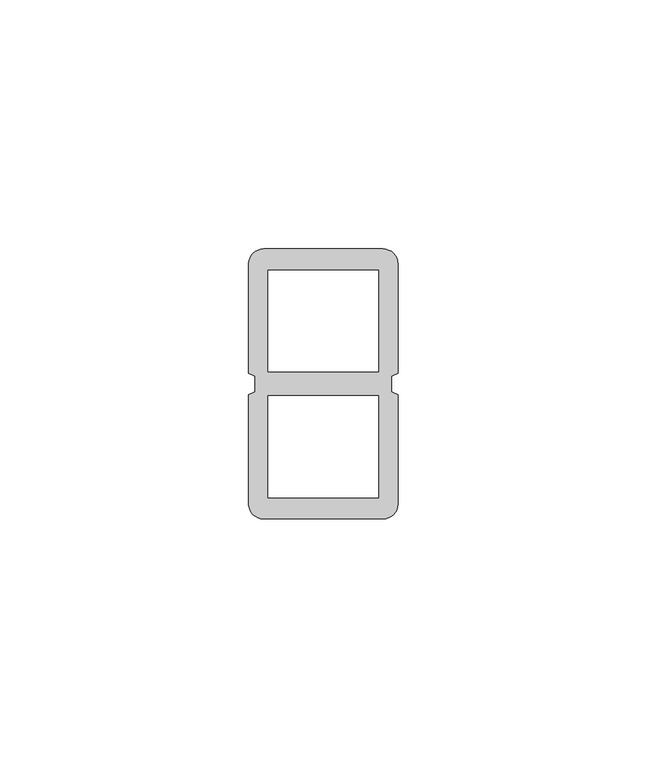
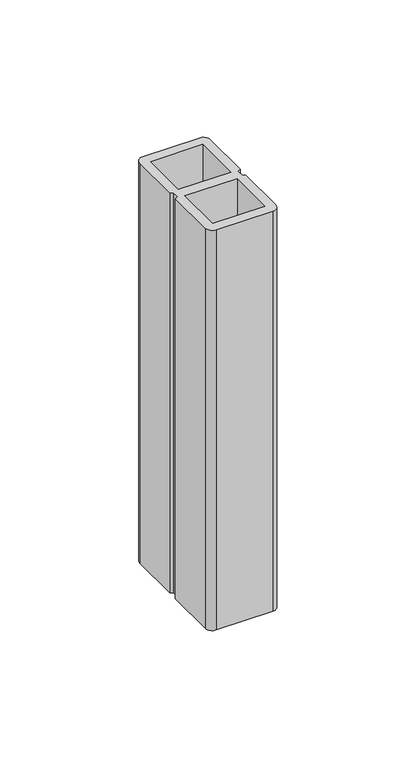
"""IFC4 building model written with IfcOpenShell, lengths in millimetres: proxy geometry, Legar systemowy LD5030_pion : Legar systemowy LD5030_pion."""

from ifc_helpers import new_model, si_unit, point, frame_2d, origin, origin_with_axes, place, context, project, spatial, polyline, circle_curve, trimmed, segment, composite_curve, outline, extrude, source, transform, mapped, element, save


def generic_models_7d2dd9e2(model_context):
    return source(origin(), model_context, "Body", "SweptSolid", [
        extrude(outline(composite_curve([segment(polyline([(0.0, -3.0018903), (0.0, -24.9387574), (-1.2480109, -25.582892), (-1.2480109, -28.6791258), (0.0, -29.3232605), (0.0, -51.2601275)]), True, "CONTINUOUS"), segment(trimmed(circle_curve(frame_2d((-3.0209296, -51.2410882)), 3.0209896), [point((0.0, -51.2601275))], [point((-3.0018903, -54.2620178))], False, "CARTESIAN"), True, "CONTINUOUS"), segment(polyline([(-3.0018903, -54.2620178), (-26.9981097, -54.2620178)]), True, "CONTINUOUS"), segment(trimmed(circle_curve(frame_2d((-26.9650502, -51.227068)), 3.0351298), [point((-26.9981097, -54.2620178))], [point((-30.0, -51.2601275))], False, "CARTESIAN"), True, "CONTINUOUS"), segment(polyline([(-30.0, -51.2601275), (-30.0, -29.321697), (-28.7550182, -28.6791258), (-28.7550182, -25.582892), (-30.0, -24.9403208), (-30.0, -3.0018903)]), True, "CONTINUOUS"), segment(trimmed(circle_curve(frame_2d((-26.9640525, -3.0359475)), 3.0361385), [point((-30.0, -3.0018903))], [point((-26.9981097, 0.0))], False, "CARTESIAN"), True, "CONTINUOUS"), segment(polyline([(-26.9981097, 0.0), (-3.0018903, 0.0)]), True, "CONTINUOUS"), segment(trimmed(circle_curve(frame_2d((-3.0303538, -3.0303538)), 3.0304875), [point((-3.0018903, 0.0))], [point((0.0, -3.0018903))], False, "CARTESIAN"), True, "CONTINUOUS")], self_intersect=False), holes=[polyline([(-26.1226846, -24.7311627), (-3.8773154, -24.7311627), (-3.8773154, -4.2620178), (-26.1226846, -4.2620178), (-26.1226846, -24.7311627)]), polyline([(-26.1226846, -29.5308551), (-26.1226846, -50.0), (-3.8773154, -50.0), (-3.8773154, -29.5308551), (-26.1226846, -29.5308551)])]), origin_with_axes(), (0.0, 0.0, 1.0), 180.0),
    ])


if __name__ == "__main__":
    model = new_model("IFC4")
    model_context = context("Model", 3, world=origin())
    ifc_project = project(units=[si_unit("LENGTHUNIT", "METRE", prefix="MILLI")], contexts=[model_context])
    site = spatial("IfcSite", under=ifc_project)
    building = spatial("IfcBuilding", under=site)
    placement = place(None, origin())
    generic_models_shape = generic_models_7d2dd9e2(model_context)
    element("IfcBuildingElementProxy", 1, Name="Legar systemowy LD5030_pion : Legar systemowy LD5030_pion", ObjectType="Legar systemowy LD5030_pion : Legar systemowy LD5030_pion", at=placement, inside=building, context=model_context, shape_type="MappedRepresentation", body=[
        mapped(generic_models_shape, transform((0.0, 0.0, 0.0), x_axis=(1.0, 0.0, 0.0), y_axis=(0.0, 1.0, 0.0), z_axis=(0.0, 0.0, 1.0))),
    ])
    save(model, "model.ifc")
